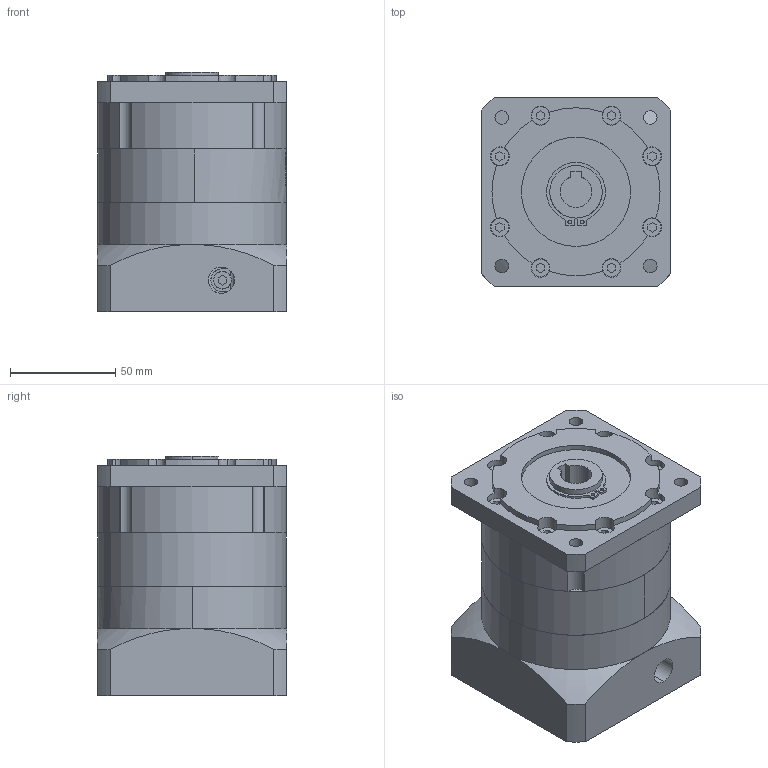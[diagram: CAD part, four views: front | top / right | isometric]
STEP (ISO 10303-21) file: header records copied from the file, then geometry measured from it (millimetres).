
FILE_DESCRIPTION (( 'STEP AP203' ), '1' );
FILE_NAME ('PBF090-L1-19-70-90.STEP', '2022-07-21T09:08:41', ( 'Windows User' ), ( 'P R C' ), 'SwSTEP 2.0', 'SolidWorks 2016', '' );
FILE_SCHEMA (( 'CONFIG_CONTROL_DESIGN' ));
Length unit declared in the file: millimetre
Products named in the file (7): PBF090-L1-19-70-90; PLBF090 蟀諉啣-梓袧; PBF090 κｳﾝﾈｦ-ﾓﾅｻｯ_ﾒｻｼｶﾄﾚｳﾝﾈｦ; PBF090梓袧; PBF090-梓袧; 囀鞠褒蹟佪 M5℅20; 粣創-6007 35x62x14
Assembly tree (6 placements, depth 2):
  PBF090-L1-19-70-90
    PLBF090 蟀諉啣-梓袧
    PBF090 κｳﾝﾈｦ-ﾓﾅｻｯ_ﾒｻｼｶﾄﾚｳﾝﾈｦ
    PBF090梓袧
    PBF090-梓袧
    囀鞠褒蹟佪 M5℅20
    粣創-6007 35x62x14
Bounding box: 90 x 90 x 114 mm (x, y, z)
Volume: 668222.2 mm3; surface area: 140564.3 mm2
Topology: 7 solids, 7 shells, 1060 faces, 2873 edges, 1901 vertices
Faces by surface type: plane 544, cylinder 205, bspline 159, sphere 88, torus 54, cone 10
Entity records: 43636 total; most frequent: CARTESIAN_POINT 17166, ORIENTED_EDGE 5730, DIRECTION 4775, EDGE_CURVE 2865, VERTEX_POINT 1901, AXIS2_PLACEMENT_3D 1685, LINE 1405, VECTOR 1405
